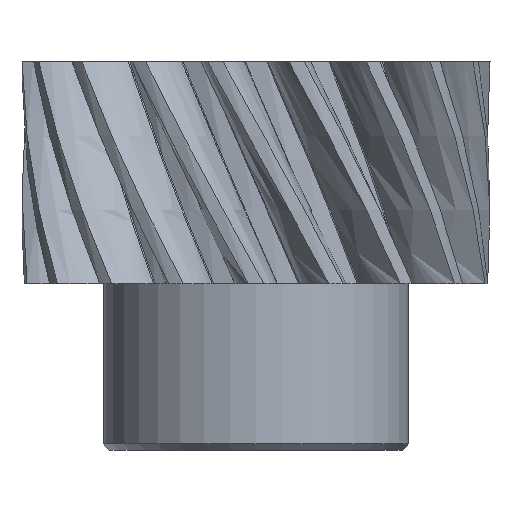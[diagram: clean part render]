
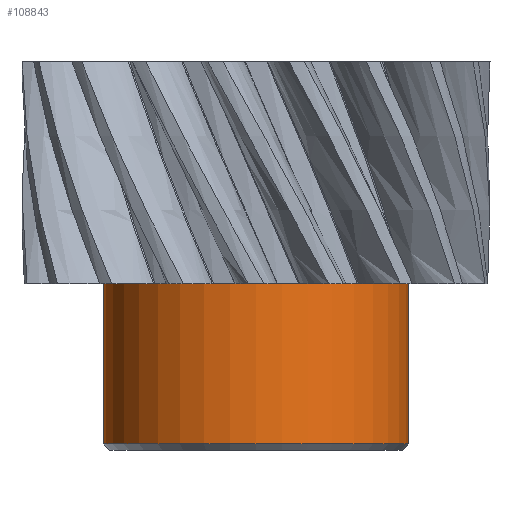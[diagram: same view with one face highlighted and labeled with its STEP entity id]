
A CAD part, left-side view. The second image highlights one B-rep face of the part: STEP entity #108843.
In plain terms, the highlighted cylindrical face has radius 55 mm (diameter 110 mm), a partial arc.
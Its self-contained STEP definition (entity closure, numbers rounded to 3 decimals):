
#2636 = EDGE_CURVE ( 'NONE', #20967, #110417, #14072, .T. ) ;
#3588 = ORIENTED_EDGE ( 'NONE', *, *, #23572, .T. ) ;
#7689 = CYLINDRICAL_SURFACE ( 'NONE', #30104, 55. ) ;
#12192 = CARTESIAN_POINT ( 'NONE',  ( 0., 0., 60. ) ) ;
#12511 = ORIENTED_EDGE ( 'NONE', *, *, #2636, .F. ) ;
#14072 = LINE ( 'NONE', #107093, #38801 ) ;
#15908 = CARTESIAN_POINT ( 'NONE',  ( 0., 55., 0. ) ) ;
#20967 = VERTEX_POINT ( 'NONE', #77961 ) ;
#21372 = AXIS2_PLACEMENT_3D ( 'NONE', #12192, #90957, #47048 ) ;
#22642 = DIRECTION ( 'NONE',  ( 0., 0., -1. ) ) ;
#23572 = EDGE_CURVE ( 'NONE', #20967, #94221, #55584, .T. ) ;
#27114 = DIRECTION ( 'NONE',  ( 0., 0., -1. ) ) ;
#29513 = CARTESIAN_POINT ( 'NONE',  ( 0., -55., 2.2 ) ) ;
#30104 = AXIS2_PLACEMENT_3D ( 'NONE', #76052, #22642, #84538 ) ;
#38801 = VECTOR ( 'NONE', #27114, 1000. ) ;
#47048 = DIRECTION ( 'NONE',  ( 0., 1., 0. ) ) ;
#51901 = VECTOR ( 'NONE', #60046, 1000. ) ;
#55584 = CIRCLE ( 'NONE', #21372, 55. ) ;
#58693 = CIRCLE ( 'NONE', #60851, 55. ) ;
#60046 = DIRECTION ( 'NONE',  ( 0., 0., -1. ) ) ;
#60851 = AXIS2_PLACEMENT_3D ( 'NONE', #113642, #106352, #61695 ) ;
#61346 = FACE_OUTER_BOUND ( 'NONE', #109211, .T. ) ;
#61695 = DIRECTION ( 'NONE',  ( 0., 1., 0. ) ) ;
#67107 = LINE ( 'NONE', #15908, #51901 ) ;
#68595 = CARTESIAN_POINT ( 'NONE',  ( 0., 55., 2.2 ) ) ;
#70439 = CARTESIAN_POINT ( 'NONE',  ( 0., 55., 60. ) ) ;
#74882 = ORIENTED_EDGE ( 'NONE', *, *, #106499, .T. ) ;
#76052 = CARTESIAN_POINT ( 'NONE',  ( 0., 0., 0. ) ) ;
#76995 = VERTEX_POINT ( 'NONE', #68595 ) ;
#77961 = CARTESIAN_POINT ( 'NONE',  ( 0., -55., 60. ) ) ;
#83122 = EDGE_CURVE ( 'NONE', #94221, #76995, #67107, .T. ) ;
#84538 = DIRECTION ( 'NONE',  ( 0., 1., 0. ) ) ;
#90957 = DIRECTION ( 'NONE',  ( 0., 0., -1. ) ) ;
#94221 = VERTEX_POINT ( 'NONE', #70439 ) ;
#106192 = ORIENTED_EDGE ( 'NONE', *, *, #83122, .T. ) ;
#106352 = DIRECTION ( 'NONE',  ( 0., 0., 1. ) ) ;
#106499 = EDGE_CURVE ( 'NONE', #76995, #110417, #58693, .T. ) ;
#107093 = CARTESIAN_POINT ( 'NONE',  ( 0., -55., 0. ) ) ;
#108843 = ADVANCED_FACE ( 'NONE', ( #61346 ), #7689, .T. ) ;
#109211 = EDGE_LOOP ( 'NONE', ( #12511, #3588, #106192, #74882 ) ) ;
#110417 = VERTEX_POINT ( 'NONE', #29513 ) ;
#113642 = CARTESIAN_POINT ( 'NONE',  ( 0., 0., 2.2 ) ) ;
